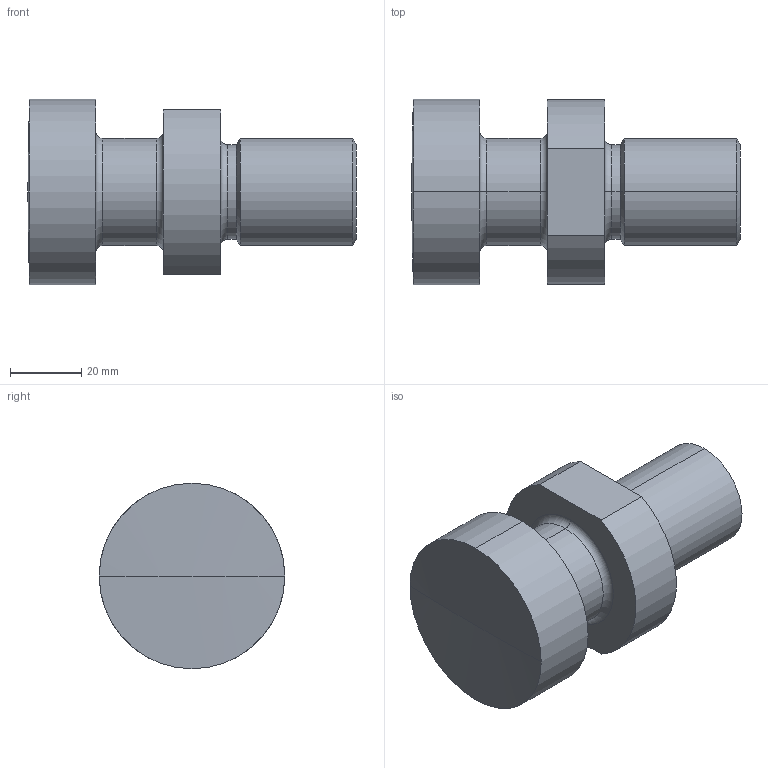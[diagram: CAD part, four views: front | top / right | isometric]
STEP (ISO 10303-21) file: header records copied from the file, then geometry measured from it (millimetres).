
FILE_DESCRIPTION (( 'STEP AP203' ), '1' );
FILE_NAME ('GERMA_Druckstueck_mit_Kupplungszapfen_DK-30.STEP', '2023-09-12T06:51:31', ( '' ), ( '' ), 'SwSTEP 2.0', 'SolidWorks 2016', '' );
FILE_SCHEMA (( 'CONFIG_CONTROL_DESIGN' ));
Length unit declared in the file: millimetre
Products named in the file (1): GERMA_Druckstueck_mit_Kupplungszapfen_DK-30
Bounding box: 92 x 52 x 52 mm (x, y, z)
Volume: 111965.7 mm3; surface area: 17771.2 mm2
Topology: 1 solids, 1 shells, 28 faces, 58 edges, 35 vertices
Faces by surface type: cylinder 10, torus 6, plane 6, cone 4, sphere 2
Entity records: 829 total; most frequent: DIRECTION 154, CARTESIAN_POINT 122, ORIENTED_EDGE 116, AXIS2_PLACEMENT_3D 67, EDGE_CURVE 58, CIRCLE 38, VERTEX_POINT 35, EDGE_LOOP 31
